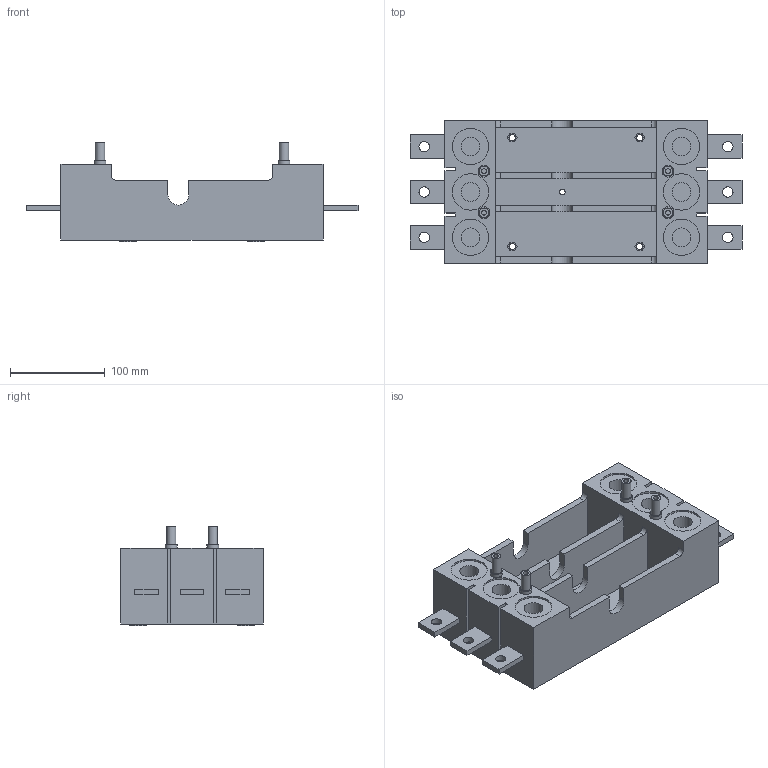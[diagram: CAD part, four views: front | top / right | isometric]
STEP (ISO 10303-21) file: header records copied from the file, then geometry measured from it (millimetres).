
FILE_DESCRIPTION(/* description */ (''),/* implementation_level */ '2;1');
FILE_NAME(/* name */ '400插入式3P前一体.stp',/* time_stamp */ '2018-06-13T14:08:14+08:00',/* author */ (''),/* organization */ (''),/* preprocessor_version */ 'ST-DEVELOPER v16',/* originating_system */ 'SIEMENS PLM Software NX 10.0',/* authorisation */ '');
FILE_SCHEMA (('AUTOMOTIVE_DESIGN { 1 0 10303 214 3 1 1 1 }'));
Length unit declared in the file: millimetre
Products named in the file (1): boj26D43AE58wmo
Bounding box: 351 x 150.5 x 105.5 mm (x, y, z)
Volume: 1804117.7 mm3; surface area: 249129.1 mm2
Topology: 1 solids, 1 shells, 199 faces, 487 edges, 343 vertices
Faces by surface type: plane 142, cylinder 57
Full cylindrical faces by diameter (mm): 5 x4, 6 x1, 6.7 x4, 10 x4, 11 x6, 12.5 x4, 17 x1, 18 x3, 20 x6, 28.5 x6, 38.5 x6
Entity records: 5567 total; most frequent: DIRECTION 937, CARTESIAN_POINT 930, ORIENTED_EDGE 828, EDGE_CURVE 414, AXIS2_PLACEMENT_3D 315, EDGE_LOOP 310, LINE 307, VECTOR 307
